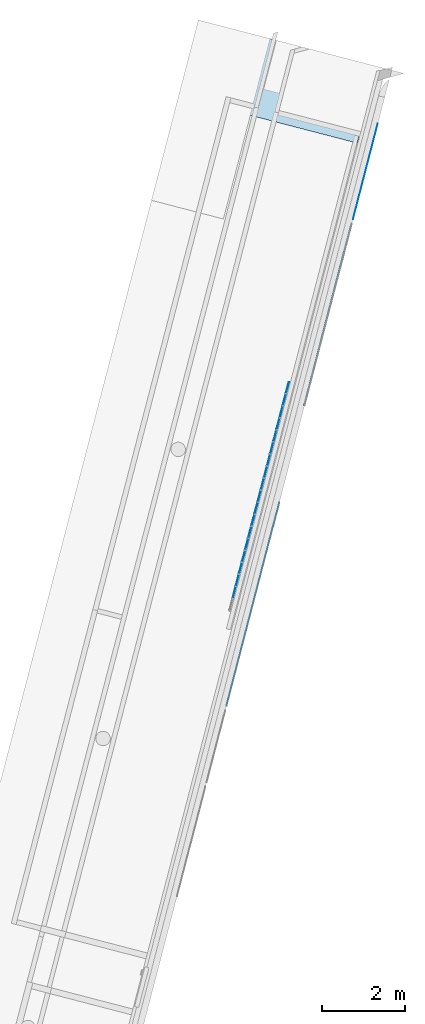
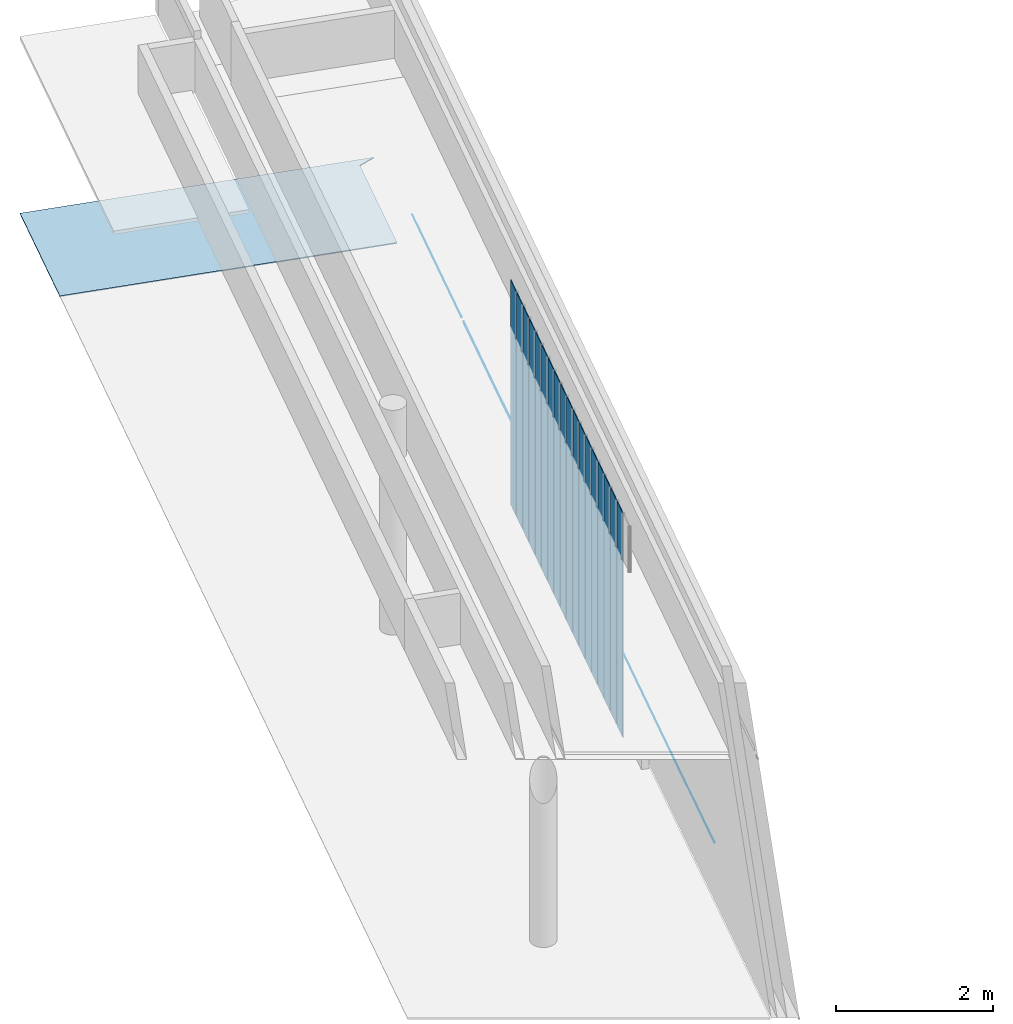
# One storey, part 7 of 9: 18 plates, 4 slabs, 1 element without a shape of its own.
"""IFC2X3 building model written with IfcOpenShell, lengths in millimetres."""

from ifc_helpers import new_model, entity, si_unit, converted_unit, derived_unit, direction, frame, origin, origin_with_axes, place, context, subcontext, project, spatial, faceted_brep, material, layer, layer_set, type_object, element, aggregate, save


model = new_model("IFC2X3")

# Units and contexts
plan_context = context("Plan", 3, precision=1e-05, world=origin_with_axes())
model_context = context("Model", 3, precision=0.01, world=origin(), true_north=direction((6.12323399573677e-17, 1.0)))
body_context = subcontext(model_context, "Body", "Model", "MODEL_VIEW")
ifc_project = project(units=[converted_unit("PLANEANGLEUNIT", "DEGREE", entity("IfcPositiveLengthMeasure", 0.0174532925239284), si_unit("PLANEANGLEUNIT", "RADIAN"), dimensions=[0, 0, 0, 0, 0, 0, 0]), si_unit("AREAUNIT", "SQUARE_METRE"), si_unit("LENGTHUNIT", "METRE", prefix="MILLI"), si_unit("MASSUNIT", "GRAM", prefix="KILO"), si_unit("POWERUNIT", "WATT"), si_unit("PRESSUREUNIT", "PASCAL", prefix="KILO"), si_unit("FORCEUNIT", "NEWTON", prefix="KILO"), si_unit("ELECTRICVOLTAGEUNIT", "VOLT"), si_unit("ELECTRICCURRENTUNIT", "AMPERE"), si_unit("THERMODYNAMICTEMPERATUREUNIT", "DEGREE_CELSIUS"), si_unit("TIMEUNIT", "SECOND"), si_unit("VOLUMEUNIT", "CUBIC_METRE"), derived_unit("LINEARVELOCITYUNIT", [(si_unit("LENGTHUNIT", "METRE"), 1), (si_unit("TIMEUNIT", "SECOND"), -1)]), derived_unit("VOLUMETRICFLOWRATEUNIT", [(si_unit("VOLUMEUNIT", "CUBIC_METRE"), 1), (si_unit("TIMEUNIT", "SECOND"), -1)]), derived_unit("THERMALTRANSMITTANCEUNIT", [(si_unit("POWERUNIT", "WATT"), 1), (si_unit("THERMODYNAMICTEMPERATUREUNIT", "KELVIN"), -1), (si_unit("AREAUNIT", "SQUARE_METRE"), -1)]), derived_unit("SOUNDPRESSUREUNIT", [(si_unit("PRESSUREUNIT", "PASCAL"), 1)])], contexts=[model_context, plan_context])

# Site, building, storey
site_placement = place(None, frame((0.0, -2.21771188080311e-09, 0.0), z_axis=(0.0, 0.0, 1.0), x_axis=(0.266093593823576, -0.963947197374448, 0.0)))
site = spatial("IfcSite", under=ifc_project, at=site_placement, Name="ENZV", CompositionType="ELEMENT")
building_placement = place(site_placement, origin_with_axes())
building = spatial("IfcBuilding", under=site, at=building_placement, Name="ZV001", CompositionType="ELEMENT")
storey_placement = place(building_placement, frame((0.0, 0.0, 5100.0), z_axis=(0.0, 0.0, 1.0), x_axis=(1.0, 0.0, 0.0)))
storey = spatial("IfcBuildingStorey", under=building, at=storey_placement, Name="H01", CompositionType="ELEMENT", Elevation=5100.0)

# Curtain wall, plates
curtain_wall_type = type_object("IfcCurtainWallType", Name="Curtain Wall:Trespiler", PredefinedType="NOTDEFINED")
curtain_wall_placement = place(storey_placement, frame((0.0, 0.0, -5100.0), z_axis=(0.0, 0.0, 1.0), x_axis=(1.0, 0.0, 0.0)))
curtain_wall = element("IfcCurtainWall", 1, at=curtain_wall_placement, inside=storey, type_object=curtain_wall_type, Name="Curtain Wall:Trespiler", ObjectType="Curtain Wall:Trespiler")
ifc_material_1 = material(Name="Glass")
plate_type = type_object("IfcPlateType", Name="System Panel:Glassfelt 10mm", PredefinedType="CURTAIN_PANEL", material=ifc_material_1)
plate_1_placement = place(curtain_wall_placement, frame((-174050.804793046, 388870.46929831, 5100.0), z_axis=(0.0, 0.0, 1.0), x_axis=(0.866025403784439, -0.5, 0.0)))
plate_1 = element("IfcPlate", 2, at=plate_1_placement, type_object=plate_type, Name="System Panel:Glassfelt 10mm", ObjectType="System Panel:Glassfelt 10mm", context=body_context, shape_type="Brep", body=[
    faceted_brep([(-138.99999999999, -5.0, 3500.0), (138.999999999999, -5.0, 3500.0), (138.999999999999, -5.0, 0.0), (-138.99999999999, -5.0, 0.0), (138.999999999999, 5.0, 3500.0), (138.999999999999, 5.0, 0.0), (-138.99999999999, 5.0, 3500.0), (-138.99999999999, 5.0, 0.0)], [[[0, 1, 2, 3]], [[1, 4, 5, 2]], [[4, 6, 7, 5]], [[6, 0, 3, 7]], [[3, 2, 5, 7]], [[6, 4, 1, 0]]], orient=[[False], [False], [False], [False], [False], [False]]),
])
plate_2_placement = place(curtain_wall_placement, frame((-173790.997170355, 388720.469301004, 5100.0), z_axis=(0.0, 0.0, 1.0), x_axis=(0.866025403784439, -0.5, 0.0)))
plate_2 = element("IfcPlate", 3, at=plate_2_placement, type_object=plate_type, Name="System Panel:Glassfelt 10mm", ObjectType="System Panel:Glassfelt 10mm", context=body_context, shape_type="Brep", body=[
    faceted_brep([(-138.99999999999, -5.0, 3500.0), (138.999999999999, -5.0, 3500.0), (138.999999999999, -5.0, 0.0), (-138.99999999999, -5.0, 0.0), (138.999999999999, 5.0, 3500.0), (138.999999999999, 5.0, 0.0), (-138.99999999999, 5.0, 3500.0), (-138.99999999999, 5.0, 0.0)], [[[0, 1, 2, 3]], [[1, 4, 5, 2]], [[4, 6, 7, 5]], [[6, 0, 3, 7]], [[3, 2, 5, 7]], [[6, 4, 1, 0]]], orient=[[False], [False], [False], [False], [False], [False]]),
])
plate_3_placement = place(curtain_wall_placement, frame((-173531.189547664, 388570.469303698, 5100.0), z_axis=(0.0, 0.0, 1.0), x_axis=(0.866025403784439, -0.5, 0.0)))
plate_3 = element("IfcPlate", 4, at=plate_3_placement, type_object=plate_type, Name="System Panel:Glassfelt 10mm", ObjectType="System Panel:Glassfelt 10mm", context=body_context, shape_type="Brep", body=[
    faceted_brep([(-138.99999999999, -5.0, 3500.0), (138.999999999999, -5.0, 3500.0), (138.999999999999, -5.0, 0.0), (-138.99999999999, -5.0, 0.0), (138.999999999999, 5.0, 3500.0), (138.999999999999, 5.0, 0.0), (-138.99999999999, 5.0, 3500.0), (-138.99999999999, 5.0, 0.0)], [[[0, 1, 2, 3]], [[1, 4, 5, 2]], [[4, 6, 7, 5]], [[6, 0, 3, 7]], [[3, 2, 5, 7]], [[6, 4, 1, 0]]], orient=[[False], [False], [False], [False], [False], [False]]),
])
plate_4_placement = place(curtain_wall_placement, frame((-173271.381924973, 388420.469306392, 5100.0), z_axis=(0.0, 0.0, 1.0), x_axis=(0.866025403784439, -0.5, 0.0)))
plate_4 = element("IfcPlate", 5, at=plate_4_placement, type_object=plate_type, Name="System Panel:Glassfelt 10mm", ObjectType="System Panel:Glassfelt 10mm", context=body_context, shape_type="Brep", body=[
    faceted_brep([(-138.99999999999, -5.0, 3500.0), (138.999999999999, -5.0, 3500.0), (138.999999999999, -5.0, 0.0), (-138.99999999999, -5.0, 0.0), (138.999999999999, 5.0, 3500.0), (138.999999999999, 5.0, 0.0), (-138.99999999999, 5.0, 3500.0), (-138.99999999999, 5.0, 0.0)], [[[0, 1, 2, 3]], [[1, 4, 5, 2]], [[4, 6, 7, 5]], [[6, 0, 3, 7]], [[3, 2, 5, 7]], [[6, 4, 1, 0]]], orient=[[False], [False], [False], [False], [False], [False]]),
])
plate_5_placement = place(curtain_wall_placement, frame((-173011.574302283, 388270.469309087, 5100.0), z_axis=(0.0, 0.0, 1.0), x_axis=(0.866025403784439, -0.5, 0.0)))
plate_5 = element("IfcPlate", 6, at=plate_5_placement, type_object=plate_type, Name="System Panel:Glassfelt 10mm", ObjectType="System Panel:Glassfelt 10mm", context=body_context, shape_type="Brep", body=[
    faceted_brep([(-138.99999999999, -5.0, 3500.0), (138.999999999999, -5.0, 3500.0), (138.999999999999, -5.0, 0.0), (-138.99999999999, -5.0, 0.0), (138.999999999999, 5.0, 3500.0), (138.999999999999, 5.0, 0.0), (-138.99999999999, 5.0, 3500.0), (-138.99999999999, 5.0, 0.0)], [[[0, 1, 2, 3]], [[1, 4, 5, 2]], [[4, 6, 7, 5]], [[6, 0, 3, 7]], [[3, 2, 5, 7]], [[6, 4, 1, 0]]], orient=[[False], [False], [False], [False], [False], [False]]),
])
plate_6_placement = place(curtain_wall_placement, frame((-172751.766679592, 388120.469311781, 5100.0), z_axis=(0.0, 0.0, 1.0), x_axis=(0.866025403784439, -0.5, 0.0)))
plate_6 = element("IfcPlate", 7, at=plate_6_placement, type_object=plate_type, Name="System Panel:Glassfelt 10mm", ObjectType="System Panel:Glassfelt 10mm", context=body_context, shape_type="Brep", body=[
    faceted_brep([(-138.99999999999, -5.0, 3500.0), (138.999999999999, -5.0, 3500.0), (138.999999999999, -5.0, 0.0), (-138.99999999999, -5.0, 0.0), (138.999999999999, 5.0, 3500.0), (138.999999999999, 5.0, 0.0), (-138.99999999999, 5.0, 3500.0), (-138.99999999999, 5.0, 0.0)], [[[0, 1, 2, 3]], [[1, 4, 5, 2]], [[4, 6, 7, 5]], [[6, 0, 3, 7]], [[3, 2, 5, 7]], [[6, 4, 1, 0]]], orient=[[False], [False], [False], [False], [False], [False]]),
])
plate_7_placement = place(curtain_wall_placement, frame((-172491.959056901, 387970.469314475, 5100.0), z_axis=(0.0, 0.0, 1.0), x_axis=(0.866025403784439, -0.5, 0.0)))
plate_7 = element("IfcPlate", 8, at=plate_7_placement, type_object=plate_type, Name="System Panel:Glassfelt 10mm", ObjectType="System Panel:Glassfelt 10mm", context=body_context, shape_type="Brep", body=[
    faceted_brep([(-138.99999999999, -5.0, 3500.0), (138.999999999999, -5.0, 3500.0), (138.999999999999, -5.0, 0.0), (-138.99999999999, -5.0, 0.0), (138.999999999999, 5.0, 3500.0), (138.999999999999, 5.0, 0.0), (-138.99999999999, 5.0, 3500.0), (-138.99999999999, 5.0, 0.0)], [[[0, 1, 2, 3]], [[1, 4, 5, 2]], [[4, 6, 7, 5]], [[6, 0, 3, 7]], [[3, 2, 5, 7]], [[6, 4, 1, 0]]], orient=[[False], [False], [False], [False], [False], [False]]),
])
plate_8_placement = place(curtain_wall_placement, frame((-172232.15143421, 387820.469317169, 5100.0), z_axis=(0.0, 0.0, 1.0), x_axis=(0.866025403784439, -0.5, 0.0)))
plate_8 = element("IfcPlate", 9, at=plate_8_placement, type_object=plate_type, Name="System Panel:Glassfelt 10mm", ObjectType="System Panel:Glassfelt 10mm", context=body_context, shape_type="Brep", body=[
    faceted_brep([(-138.99999999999, -5.0, 3500.0), (138.999999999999, -5.0, 3500.0), (138.999999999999, -5.0, 0.0), (-138.99999999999, -5.0, 0.0), (138.999999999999, 5.0, 3500.0), (138.999999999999, 5.0, 0.0), (-138.99999999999, 5.0, 3500.0), (-138.99999999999, 5.0, 0.0)], [[[0, 1, 2, 3]], [[1, 4, 5, 2]], [[4, 6, 7, 5]], [[6, 0, 3, 7]], [[3, 2, 5, 7]], [[6, 4, 1, 0]]], orient=[[False], [False], [False], [False], [False], [False]]),
])
plate_9_placement = place(curtain_wall_placement, frame((-171972.343811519, 387670.469319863, 5100.0), z_axis=(0.0, 0.0, 1.0), x_axis=(0.866025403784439, -0.5, 0.0)))
plate_9 = element("IfcPlate", 10, at=plate_9_placement, type_object=plate_type, Name="System Panel:Glassfelt 10mm", ObjectType="System Panel:Glassfelt 10mm", context=body_context, shape_type="Brep", body=[
    faceted_brep([(-138.99999999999, -5.0, 3500.0), (138.999999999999, -5.0, 3500.0), (138.999999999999, -5.0, 0.0), (-138.99999999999, -5.0, 0.0), (138.999999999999, 5.0, 3500.0), (138.999999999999, 5.0, 0.0), (-138.99999999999, 5.0, 3500.0), (-138.99999999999, 5.0, 0.0)], [[[0, 1, 2, 3]], [[1, 4, 5, 2]], [[4, 6, 7, 5]], [[6, 0, 3, 7]], [[3, 2, 5, 7]], [[6, 4, 1, 0]]], orient=[[False], [False], [False], [False], [False], [False]]),
])
plate_10_placement = place(curtain_wall_placement, frame((-171712.536188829, 387520.469322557, 5100.0), z_axis=(0.0, 0.0, 1.0), x_axis=(0.866025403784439, -0.5, 0.0)))
plate_10 = element("IfcPlate", 11, at=plate_10_placement, type_object=plate_type, Name="System Panel:Glassfelt 10mm", ObjectType="System Panel:Glassfelt 10mm", context=body_context, shape_type="Brep", body=[
    faceted_brep([(-138.99999999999, -5.0, 3500.0), (138.999999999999, -5.0, 3500.0), (138.999999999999, -5.0, 0.0), (-138.99999999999, -5.0, 0.0), (138.999999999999, 5.0, 3500.0), (138.999999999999, 5.0, 0.0), (-138.99999999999, 5.0, 3500.0), (-138.99999999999, 5.0, 0.0)], [[[0, 1, 2, 3]], [[1, 4, 5, 2]], [[4, 6, 7, 5]], [[6, 0, 3, 7]], [[3, 2, 5, 7]], [[6, 4, 1, 0]]], orient=[[False], [False], [False], [False], [False], [False]]),
])
plate_11_placement = place(curtain_wall_placement, frame((-171452.728566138, 387370.469325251, 5100.0), z_axis=(0.0, 0.0, 1.0), x_axis=(0.866025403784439, -0.5, 0.0)))
plate_11 = element("IfcPlate", 12, at=plate_11_placement, type_object=plate_type, Name="System Panel:Glassfelt 10mm", ObjectType="System Panel:Glassfelt 10mm", context=body_context, shape_type="Brep", body=[
    faceted_brep([(-138.99999999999, -5.0, 3500.0), (138.999999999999, -5.0, 3500.0), (138.999999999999, -5.0, 0.0), (-138.99999999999, -5.0, 0.0), (138.999999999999, 5.0, 3500.0), (138.999999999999, 5.0, 0.0), (-138.99999999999, 5.0, 3500.0), (-138.99999999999, 5.0, 0.0)], [[[0, 1, 2, 3]], [[1, 4, 5, 2]], [[4, 6, 7, 5]], [[6, 0, 3, 7]], [[3, 2, 5, 7]], [[6, 4, 1, 0]]], orient=[[False], [False], [False], [False], [False], [False]]),
])
plate_12_placement = place(curtain_wall_placement, frame((-171192.920943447, 387220.469327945, 5100.0), z_axis=(0.0, 0.0, 1.0), x_axis=(0.866025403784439, -0.5, 0.0)))
plate_12 = element("IfcPlate", 13, at=plate_12_placement, type_object=plate_type, Name="System Panel:Glassfelt 10mm", ObjectType="System Panel:Glassfelt 10mm", context=body_context, shape_type="Brep", body=[
    faceted_brep([(-138.99999999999, -5.0, 3500.0), (138.999999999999, -5.0, 3500.0), (138.999999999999, -5.0, 0.0), (-138.99999999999, -5.0, 0.0), (138.999999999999, 5.0, 3500.0), (138.999999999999, 5.0, 0.0), (-138.99999999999, 5.0, 3500.0), (-138.99999999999, 5.0, 0.0)], [[[0, 1, 2, 3]], [[1, 4, 5, 2]], [[4, 6, 7, 5]], [[6, 0, 3, 7]], [[3, 2, 5, 7]], [[6, 4, 1, 0]]], orient=[[False], [False], [False], [False], [False], [False]]),
])
plate_13_placement = place(curtain_wall_placement, frame((-170933.113320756, 387070.46933064, 5100.0), z_axis=(0.0, 0.0, 1.0), x_axis=(0.866025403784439, -0.5, 0.0)))
plate_13 = element("IfcPlate", 14, at=plate_13_placement, type_object=plate_type, Name="System Panel:Glassfelt 10mm", ObjectType="System Panel:Glassfelt 10mm", context=body_context, shape_type="Brep", body=[
    faceted_brep([(-138.99999999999, -5.0, 3500.0), (138.999999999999, -5.0, 3500.0), (138.999999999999, -5.0, 0.0), (-138.99999999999, -5.0, 0.0), (138.999999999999, 5.0, 3500.0), (138.999999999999, 5.0, 0.0), (-138.99999999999, 5.0, 3500.0), (-138.99999999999, 5.0, 0.0)], [[[0, 1, 2, 3]], [[1, 4, 5, 2]], [[4, 6, 7, 5]], [[6, 0, 3, 7]], [[3, 2, 5, 7]], [[6, 4, 1, 0]]], orient=[[False], [False], [False], [False], [False], [False]]),
])
plate_14_placement = place(curtain_wall_placement, frame((-170673.305698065, 386920.469333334, 5100.0), z_axis=(0.0, 0.0, 1.0), x_axis=(0.866025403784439, -0.5, 0.0)))
plate_14 = element("IfcPlate", 15, at=plate_14_placement, type_object=plate_type, Name="System Panel:Glassfelt 10mm", ObjectType="System Panel:Glassfelt 10mm", context=body_context, shape_type="Brep", body=[
    faceted_brep([(-138.99999999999, -5.0, 3500.0), (138.999999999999, -5.0, 3500.0), (138.999999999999, -5.0, 0.0), (-138.99999999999, -5.0, 0.0), (138.999999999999, 5.0, 3500.0), (138.999999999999, 5.0, 0.0), (-138.99999999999, 5.0, 3500.0), (-138.99999999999, 5.0, 0.0)], [[[0, 1, 2, 3]], [[1, 4, 5, 2]], [[4, 6, 7, 5]], [[6, 0, 3, 7]], [[3, 2, 5, 7]], [[6, 4, 1, 0]]], orient=[[False], [False], [False], [False], [False], [False]]),
])
plate_15_placement = place(curtain_wall_placement, frame((-170413.498075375, 386770.469336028, 5100.0), z_axis=(0.0, 0.0, 1.0), x_axis=(0.866025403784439, -0.5, 0.0)))
plate_15 = element("IfcPlate", 16, at=plate_15_placement, type_object=plate_type, Name="System Panel:Glassfelt 10mm", ObjectType="System Panel:Glassfelt 10mm", context=body_context, shape_type="Brep", body=[
    faceted_brep([(-138.99999999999, -5.0, 3500.0), (138.999999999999, -5.0, 3500.0), (138.999999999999, -5.0, 0.0), (-138.99999999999, -5.0, 0.0), (138.999999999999, 5.0, 3500.0), (138.999999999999, 5.0, 0.0), (-138.99999999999, 5.0, 3500.0), (-138.99999999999, 5.0, 0.0)], [[[0, 1, 2, 3]], [[1, 4, 5, 2]], [[4, 6, 7, 5]], [[6, 0, 3, 7]], [[3, 2, 5, 7]], [[6, 4, 1, 0]]], orient=[[False], [False], [False], [False], [False], [False]]),
])
plate_16_placement = place(curtain_wall_placement, frame((-170153.690452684, 386620.469338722, 5100.0), z_axis=(0.0, 0.0, 1.0), x_axis=(0.866025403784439, -0.5, 0.0)))
plate_16 = element("IfcPlate", 17, at=plate_16_placement, type_object=plate_type, Name="System Panel:Glassfelt 10mm", ObjectType="System Panel:Glassfelt 10mm", context=body_context, shape_type="Brep", body=[
    faceted_brep([(-138.99999999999, -5.0, 3500.0), (138.999999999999, -5.0, 3500.0), (138.999999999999, -5.0, 0.0), (-138.99999999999, -5.0, 0.0), (138.999999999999, 5.0, 3500.0), (138.999999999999, 5.0, 0.0), (-138.99999999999, 5.0, 3500.0), (-138.99999999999, 5.0, 0.0)], [[[0, 1, 2, 3]], [[1, 4, 5, 2]], [[4, 6, 7, 5]], [[6, 0, 3, 7]], [[3, 2, 5, 7]], [[6, 4, 1, 0]]], orient=[[False], [False], [False], [False], [False], [False]]),
])
plate_17_placement = place(curtain_wall_placement, frame((-169893.882829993, 386470.469341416, 5100.0), z_axis=(0.0, 0.0, 1.0), x_axis=(0.866025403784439, -0.5, 0.0)))
plate_17 = element("IfcPlate", 18, at=plate_17_placement, type_object=plate_type, Name="System Panel:Glassfelt 10mm", ObjectType="System Panel:Glassfelt 10mm", context=body_context, shape_type="Brep", body=[
    faceted_brep([(-138.99999999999, -5.0, 3500.0), (138.999999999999, -5.0, 3500.0), (138.999999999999, -5.0, 0.0), (-138.99999999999, -5.0, 0.0), (138.999999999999, 5.0, 3500.0), (138.999999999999, 5.0, 0.0), (-138.99999999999, 5.0, 3500.0), (-138.99999999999, 5.0, 0.0)], [[[0, 1, 2, 3]], [[1, 4, 5, 2]], [[4, 6, 7, 5]], [[6, 0, 3, 7]], [[3, 2, 5, 7]], [[6, 4, 1, 0]]], orient=[[False], [False], [False], [False], [False], [False]]),
])
plate_18_placement = place(curtain_wall_placement, frame((-169634.075207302, 386320.46934411, 5100.0), z_axis=(0.0, 0.0, 1.0), x_axis=(0.866025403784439, -0.5, 0.0)))
plate_18 = element("IfcPlate", 19, at=plate_18_placement, type_object=plate_type, Name="System Panel:Glassfelt 10mm", ObjectType="System Panel:Glassfelt 10mm", context=body_context, shape_type="Brep", body=[
    faceted_brep([(-138.99999999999, -5.0, 3500.0), (138.999999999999, -5.0, 3500.0), (138.999999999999, -5.0, 0.0), (-138.99999999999, -5.0, 0.0), (138.999999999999, 5.0, 3500.0), (138.999999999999, 5.0, 0.0), (-138.99999999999, 5.0, 3500.0), (-138.99999999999, 5.0, 0.0)], [[[0, 1, 2, 3]], [[1, 4, 5, 2]], [[4, 6, 7, 5]], [[6, 0, 3, 7]], [[3, 2, 5, 7]], [[6, 4, 1, 0]]], orient=[[False], [False], [False], [False], [False], [False]]),
])
aggregate(curtain_wall, [plate_1, plate_2, plate_3, plate_4, plate_5, plate_6, plate_7, plate_8, plate_9, plate_10, plate_11, plate_12, plate_13, plate_14, plate_15, plate_16, plate_17, plate_18])

# Slabs
ifc_material_2 = material(Name="Gulv - Linoleum")
ifc_layer_1 = layer(ifc_material_2, 2.5)
ifc_material_3 = material(Name="Avretting")
ifc_layer_2 = layer(ifc_material_3, 12.5)
ifc_layer_set_1 = layer_set([ifc_layer_1, ifc_layer_2], Name="Floor:ENZV_G01_Banebelegg linoleum")
slab_type_1 = type_object("IfcSlabType", Name="Floor:ENZV_G01_Banebelegg linoleum", PredefinedType="FLOOR", material=ifc_layer_set_1)
slab_1_placement = place(storey_placement, frame((-180450.441641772, 377861.097970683, -15.0), z_axis=(0.0, 0.0, 1.0), x_axis=(1.0, 0.0, 0.0)))
element("IfcSlab", 20, at=slab_1_placement, inside=storey, type_object=slab_type_1, Name="Floor:ENZV_G01_Banebelegg linoleum:2", ObjectType="Floor:ENZV_G01_Banebelegg linoleum", PredefinedType="FLOOR", context=body_context, shape_type="Brep", body=[
    faceted_brep([(2900.52218298, 13615.3780607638, 15.0), (2900.52218298, 13615.3780607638, 1.61648472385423e-13), (2900.35553150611, 13615.0893914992, 1.61648472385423e-13), (2900.35553150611, 13615.0893914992, 15.0), (850.099728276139, 14799.1061750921, 1.61648472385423e-13), (850.099728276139, 14799.1061750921, 15.0)], [[[0, 1, 2, 3]], [[4, 5, 3, 2]], [[5, 0, 3]], [[1, 4, 2]], [[5, 4, 1, 0]]], orient=[[False], [False], [False], [False], [False]]),
])
slab_2_placement = place(storey_placement, frame((-180450.441641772, 377861.097970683, -15.0), z_axis=(0.0, 0.0, 1.0), x_axis=(1.0, 0.0, 0.0)))
element("IfcSlab", 21, at=slab_2_placement, inside=storey, type_object=slab_type_1, Name="Floor:ENZV_G01_Banebelegg linoleum:3", ObjectType="Floor:ENZV_G01_Banebelegg linoleum", PredefinedType="FLOOR", context=body_context, shape_type="Brep", body=[
    faceted_brep([(13398.0434244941, 7555.06059017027, 15.0), (13398.0434244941, 7555.06059017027, 1.61648472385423e-13), (13397.8267149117, 7554.68523815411, 1.61648472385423e-13), (13397.8267149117, 7554.68523815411, 15.0), (9015.69332572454, 10084.6075577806, 1.61648472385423e-13), (9015.69332572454, 10084.6075577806, 15.0), (9015.87729233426, 10084.9261992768, 1.61648472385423e-13), (9015.87729233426, 10084.9261992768, 15.0)], [[[0, 1, 2, 3]], [[3, 2, 4, 5]], [[6, 7, 5, 4]], [[7, 0, 3, 5]], [[1, 6, 4, 2]], [[7, 6, 1, 0]]], orient=[[False], [False], [False], [False], [False], [False]]),
])
ifc_material_4 = material(Name="Gulv - Vinyl")
ifc_layer_3 = layer(ifc_material_4, 2.5)
ifc_layer_4 = layer(ifc_material_3, 12.5)
ifc_layer_set_2 = layer_set([ifc_layer_3, ifc_layer_4], Name="Floor:ENZV_G03_Banebelegg vinyl")
slab_type_2 = type_object("IfcSlabType", Name="Floor:ENZV_G03_Banebelegg vinyl", PredefinedType="FLOOR", material=ifc_layer_set_2)
slab_3_placement = place(storey_placement, frame((-177452.757350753, 383043.443586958, -15.0), z_axis=(0.0, 0.0, 1.0), x_axis=(1.0, 0.0, 0.0)))
element("IfcSlab", 22, at=slab_3_placement, inside=storey, type_object=slab_type_2, Name="Floor:ENZV_G03_Banebelegg vinyl", ObjectType="Floor:ENZV_G03_Banebelegg vinyl", PredefinedType="FLOOR", context=body_context, shape_type="Brep", body=[
    faceted_brep([(3916.9458934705, 6115.65024628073, 15.0), (3916.9458934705, 6115.65024628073, 1.61648472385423e-13), (3914.50413310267, 6111.42069371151, 1.61648472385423e-13), (3914.50413310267, 6111.42069371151, 15.0), (0.0, 8371.30064448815, 1.61648472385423e-13), (0.0, 8371.30064448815, 15.0), (2.44190138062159, 8375.53011564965, 1.61648472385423e-13), (2.44190138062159, 8375.53011564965, 15.0)], [[[0, 1, 2, 3]], [[3, 2, 4, 5]], [[6, 7, 5, 4]], [[7, 0, 3, 5]], [[1, 6, 4, 2]], [[7, 6, 1, 0]]], orient=[[False], [False], [False], [False], [False], [False]]),
])
ifc_material_5 = material(Name="Fliser 600x600mm mørk grå")
ifc_layer_5 = layer(ifc_material_5, 15.0)
ifc_layer_set_3 = layer_set([ifc_layer_5], Name="Floor:ENZV_G04_Flis mørk grå 15mm")
slab_type_3 = type_object("IfcSlabType", Name="Floor:ENZV_G04_Flis mørk grå 15mm", PredefinedType="FLOOR", material=ifc_layer_set_3)
slab_4_placement = place(storey_placement, origin_with_axes())
element("IfcSlab", 23, at=slab_4_placement, inside=storey, type_object=slab_type_3, Name="Floor:ENZV_G04_Flis mørk grå 15mm", ObjectType="Floor:ENZV_G04_Flis mørk grå 15mm", PredefinedType="FLOOR", context=body_context, shape_type="Brep", body=[
    faceted_brep([(-180824.85757456, 393213.360022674, 0.0), (-180824.85757456, 393213.360022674, -14.9999999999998), (-180824.85757456, 392956.01090342, -14.9999999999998), (-180824.85757456, 392956.01090342, 0.0), (-179283.018693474, 392065.892856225, -14.9999999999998), (-179283.018693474, 392065.892856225, 0.0), (-181513.131301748, 388202.950924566, -14.9999999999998), (-181513.131301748, 388202.950924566, 0.0), (-183166.401673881, 389157.399416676, -1.13686837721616e-13), (-183166.401673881, 389157.399416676, -14.9999999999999)], [[[0, 1, 2, 3]], [[3, 2, 4, 5]], [[6, 7, 5, 4]], [[7, 8, 0, 3, 5]], [[1, 9, 6, 4, 2]], [[9, 1, 0, 8]], [[8, 7, 6, 9]]], orient=[[False], [False], [False], [False], [False], [False], [False]]),
])

save(model, "model.ifc")
